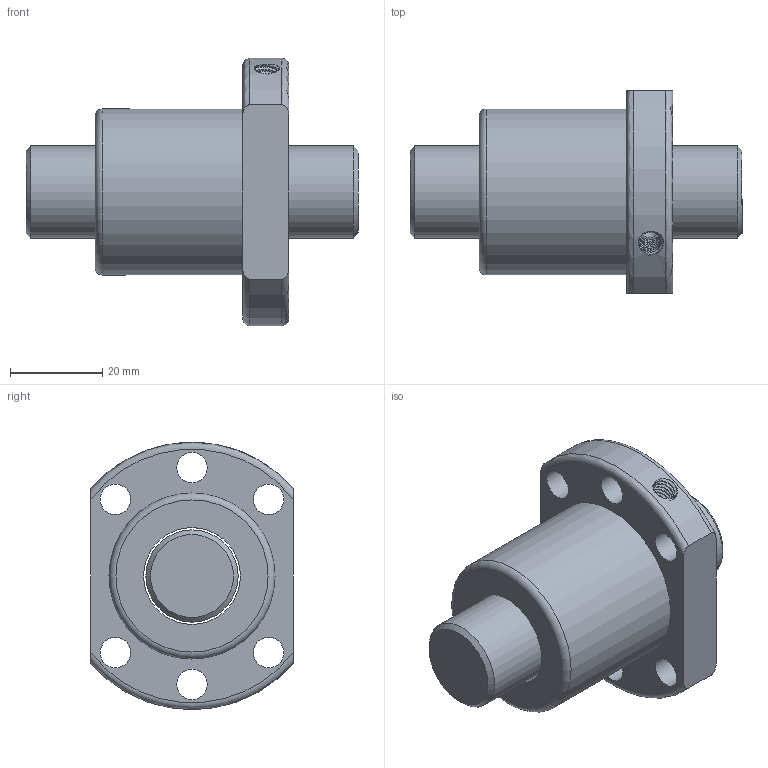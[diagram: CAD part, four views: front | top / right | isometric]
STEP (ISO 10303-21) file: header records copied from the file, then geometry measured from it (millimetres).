
FILE_DESCRIPTION(/* description */ ('Unknown','CAx-IF Rec.Pracs.---Representation and Presentation of Product Manufacturing Information (PMI)---4.0---2014-10-13','CAx-IF Rec.Pracs.---3D Tessellated Geometry---0.4---2014-09-14','2;1'),/* implementation_level */ '2;1');
FILE_NAME(/* name */ 'SFU02004',/* time_stamp */ '2020-12-07T14:19:25+08:00',/* author */ ('Unknown'),/* organization */ ('Unknown'),/* preprocessor_version */ 'ST-DEVELOPER v16.7',/* originating_system */ 'Solid Edge',/* authorisation */ 'Unknown');
FILE_SCHEMA (('AP242_MANAGED_MODEL_BASED_3D_ENGINEERING_MIM_LF { 1 0 10303 442 1 1 4 }'));
Length unit declared in the file: millimetre
Products named in the file (1): SFU02004
Bounding box: 72 x 44 x 58 mm (x, y, z)
Volume: 60864.5 mm3; surface area: 18039.4 mm2
Topology: 2 solids, 2 shells, 31 faces, 79 edges, 54 vertices
Faces by surface type: cylinder 14, plane 8, torus 5, bspline 2, cone 2
Full cylindrical faces by diameter (mm): 4 x1, 6.6 x6, 20 x1, 21 x1, 36 x1
Entity records: 3276 total; most frequent: CARTESIAN_POINT 2491, DIRECTION 142, ORIENTED_EDGE 118, AXIS2_PLACEMENT_3D 68, EDGE_LOOP 62, FACE_BOUND 62, EDGE_CURVE 59, VERTEX_POINT 47
